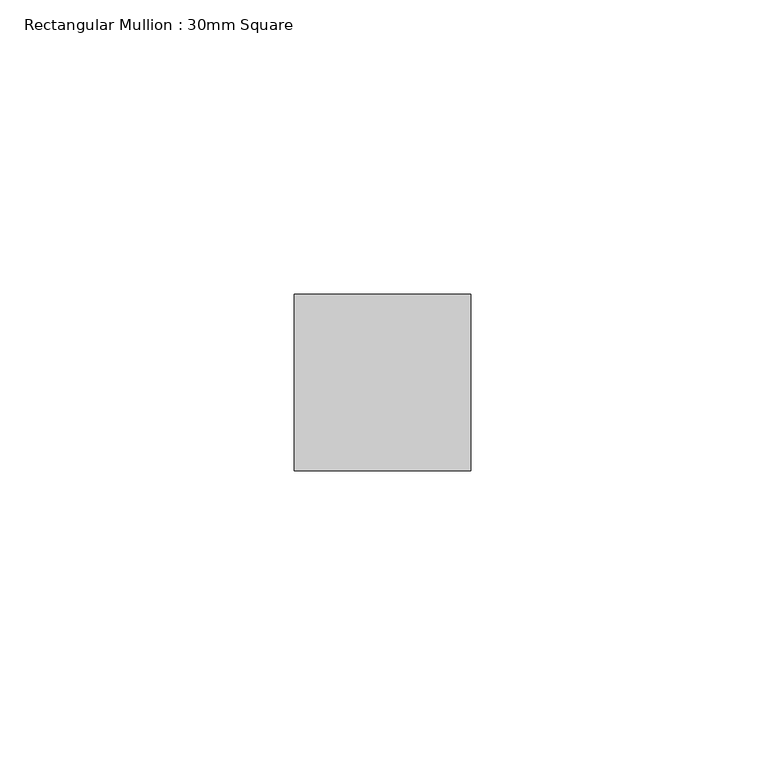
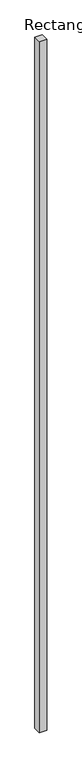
"""IFC4 building model written with IfcOpenShell, lengths in millimetres: member geometry, Rectangular Mullion : 30mm Square."""

from ifc_helpers import new_model, si_unit, frame, origin, place, context, project, spatial, polyline, outline, extrude, source, transform, mapped, element, save


def rectangular_mullion_30mm_square_bb45b953(model_context):
    return source(origin(), model_context, "Body", "SweptSolid", [
        extrude(outline(polyline([(0.0, 15.0), (0.0, -15.0), (-30.0, -15.0), (-30.0, 15.0), (0.0, 15.0)])), frame((0.0, 0.0, -2930.0), z_axis=(0.0, 0.0, 1.0), x_axis=(1.0, 0.0, 0.0)), (0.0, 0.0, 1.0), 2930.0),
    ])


if __name__ == "__main__":
    model = new_model("IFC4")
    model_context = context("Model", 3, world=origin())
    ifc_project = project(units=[si_unit("LENGTHUNIT", "METRE", prefix="MILLI")], contexts=[model_context])
    site = spatial("IfcSite", under=ifc_project)
    building = spatial("IfcBuilding", under=site)
    placement = place(None, origin())
    rectangular_mullion_30mm_square_shape = rectangular_mullion_30mm_square_bb45b953(model_context)
    element("IfcMember", 1, ObjectType="Rectangular Mullion : 30mm Square", at=placement, inside=building, context=model_context, shape_type="MappedRepresentation", body=[
        mapped(rectangular_mullion_30mm_square_shape, transform((0.0, 0.0, 0.0), x_axis=(1.0, 0.0, 0.0), y_axis=(0.0, 1.0, 0.0), z_axis=(0.0, 0.0, 1.0))),
    ])
    save(model, "model.ifc")
